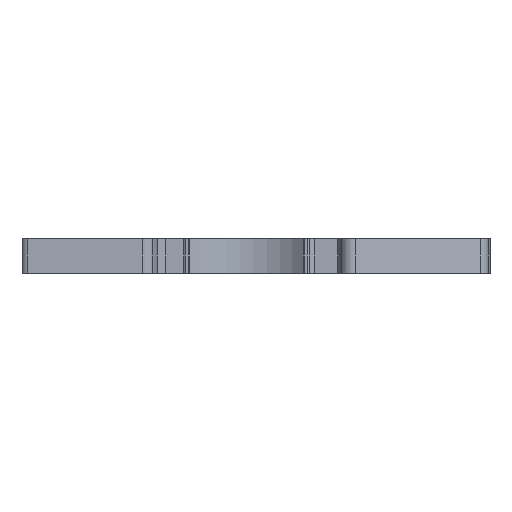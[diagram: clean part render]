
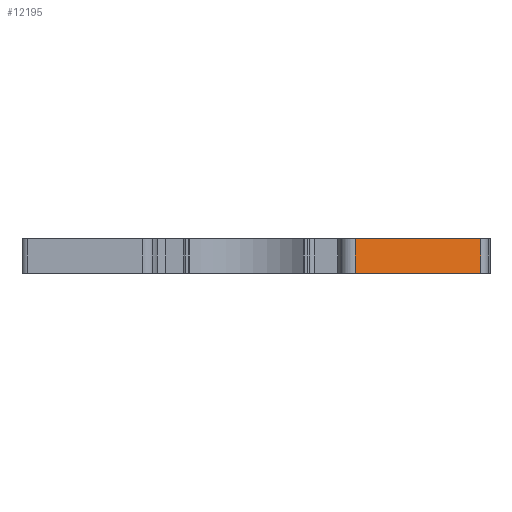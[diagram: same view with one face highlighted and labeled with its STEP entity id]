
A CAD part, front view. The second image highlights one B-rep face of the part: STEP entity #12195.
In plain terms, the highlighted planar face has unit normal (0.309, -0.951, 0).
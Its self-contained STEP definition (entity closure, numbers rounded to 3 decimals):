
#607=DIRECTION('',(-0.951,-0.309,0.));
#608=VECTOR('',#607,23.553);
#609=CARTESIAN_POINT('',(43.968,-51.546,3.1));
#610=LINE('',#609,#608);
#734=DIRECTION('',(0.951,0.309,0.));
#735=VECTOR('',#734,23.553);
#736=CARTESIAN_POINT('',(21.568,-58.824,-3.05));
#737=LINE('',#736,#735);
#1188=DIRECTION('',(0.,0.,1.));
#1189=VECTOR('',#1188,6.15);
#1190=CARTESIAN_POINT('',(21.568,-58.824,-3.05));
#1191=LINE('',#1190,#1189);
#1192=DIRECTION('',(0.,0.,1.));
#1193=VECTOR('',#1192,6.15);
#1194=CARTESIAN_POINT('',(43.968,-51.546,-3.05));
#1195=LINE('',#1194,#1193);
#9122=CARTESIAN_POINT('',(43.968,-51.546,3.1));
#9123=VERTEX_POINT('',#9122);
#9124=CARTESIAN_POINT('',(21.568,-58.824,3.1));
#9125=VERTEX_POINT('',#9124);
#9210=CARTESIAN_POINT('',(21.568,-58.824,-3.05));
#9211=VERTEX_POINT('',#9210);
#9212=CARTESIAN_POINT('',(43.968,-51.546,-3.05));
#9213=VERTEX_POINT('',#9212);
#12183=CARTESIAN_POINT('',(32.768,-55.185,0.025));
#12184=DIRECTION('',(-0.309,0.951,0.));
#12185=DIRECTION('',(-0.951,-0.309,0.));
#12186=AXIS2_PLACEMENT_3D('',#12183,#12184,#12185);
#12187=PLANE('',#12186);
#12188=ORIENTED_EDGE('',*,*,#11762,.F.);
#12189=ORIENTED_EDGE('',*,*,#12177,.T.);
#12190=ORIENTED_EDGE('',*,*,#11609,.F.);
#12192=ORIENTED_EDGE('',*,*,#12191,.F.);
#12193=EDGE_LOOP('',(#12188,#12189,#12190,#12192));
#12194=FACE_OUTER_BOUND('',#12193,.F.);
#11609=EDGE_CURVE('',#9123,#9125,#610,.T.);
#11762=EDGE_CURVE('',#9211,#9213,#737,.T.);
#12177=EDGE_CURVE('',#9211,#9125,#1191,.T.);
#12191=EDGE_CURVE('',#9213,#9123,#1195,.T.);
#12195=ADVANCED_FACE('',(#12194),#12187,.F.);
